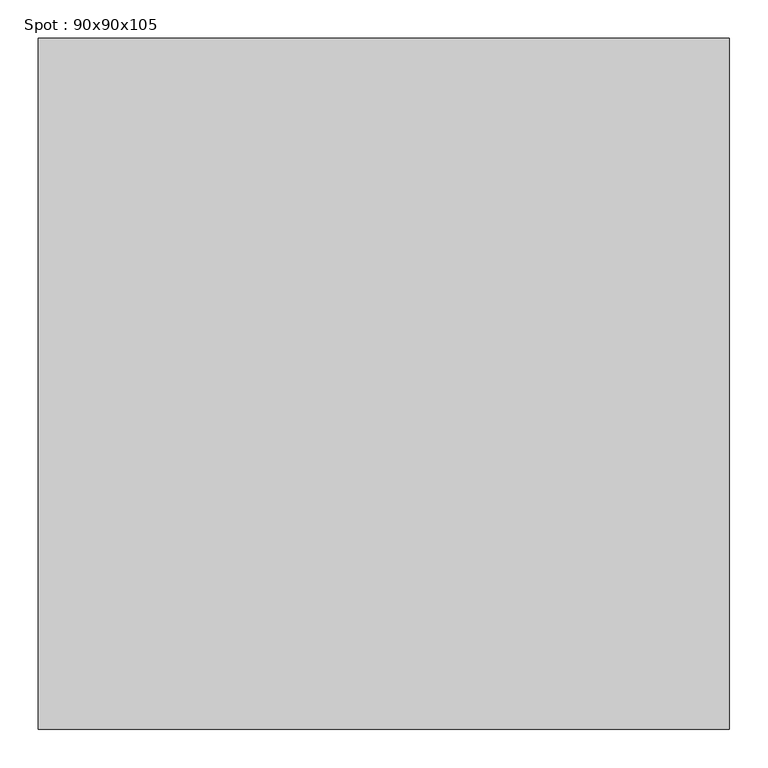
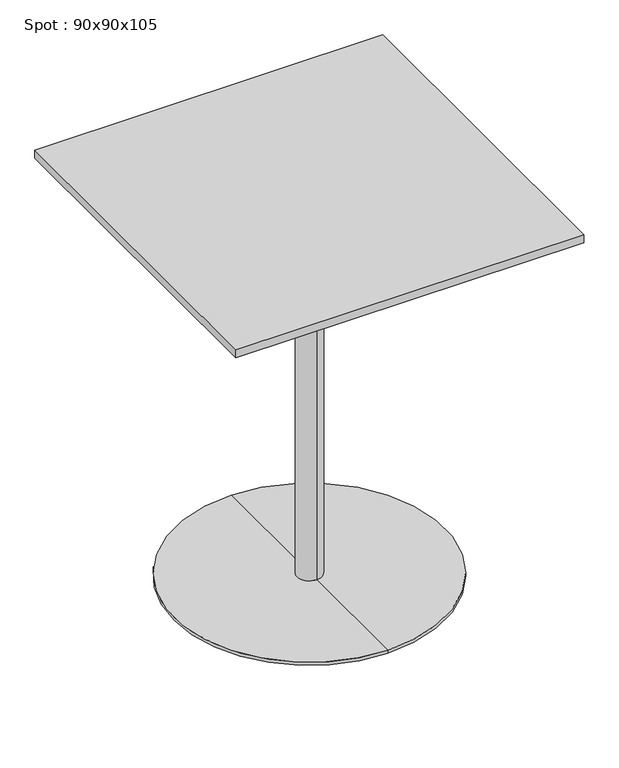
"""IFC4 building model written with IfcOpenShell, lengths in millimetres: furniture geometry, Spot : 90x90x105."""

from ifc_helpers import new_model, si_unit, frame, origin, place, context, project, spatial, polyline, circle_curve, outline, extrude, source, transform, mapped, element, save
from ifc_brep_helpers import plane_surface, cylinder_surface, revolved_surface, advanced_brep


def spot_90x90x105_c4fba47d(model_context):
    return source(origin(), model_context, "Body", "SolidModel", [
        extrude(outline(polyline([(450.0, 450.0), (450.0, -450.0), (-450.0, -450.0), (-450.0, 450.0), (450.0, 450.0)])), frame((0.0, 0.0, 1028.0), z_axis=(0.0, 0.0, 1.0), x_axis=(1.0, 0.0, 0.0)), (0.0, 0.0, 1.0), 22.0),
        advanced_brep(
        [(0.0, 32.0, 10.0), (0.0, -32.0, 10.0), (0.0, -32.0, 997.406916), (0.0, 32.0, 997.406916), (0.0, 350.0, 10.0), (0.0, -350.0, 10.0), (0.0, 350.0, 2.0), (0.0, -350.0, 2.0), (0.0, 0.0, 2.0), (0.0, 150.0, 1028.0), (0.0, -150.0, 1028.0), (0.0, 0.0, 1028.0), (0.0, 150.0, 1016.7213673), (0.0, -150.0, 1016.7213673)],
        [
            (0, 1, circle_curve(frame((0.0, 0.0, 10.0), z_axis=(0.0, 0.0, 1.0), x_axis=(0.0, -1.0, 0.0)), 32.0)),
            (1, 2),
            (2, 3, circle_curve(frame((0.0, 0.0, 997.406916), z_axis=(0.0, 0.0, -1.0), x_axis=(0.0, -1.0, 0.0)), 32.0)),
            (3, 0),
            (1, 0, circle_curve(frame((0.0, 0.0, 10.0), z_axis=(0.0, 0.0, 1.0), x_axis=(0.0, -1.0, 0.0)), 32.0)),
            (3, 2, circle_curve(frame((0.0, 0.0, 997.406916), z_axis=(0.0, 0.0, -1.0), x_axis=(0.0, -1.0, 0.0)), 32.0)),
            (4, 5, circle_curve(frame((0.0, 0.0, 10.0), z_axis=(0.0, 0.0, 1.0), x_axis=(0.0, -1.0, 0.0)), 350.0)),
            (5, 1),
            (0, 4),
            (5, 4, circle_curve(frame((0.0, 0.0, 10.0), z_axis=(0.0, 0.0, 1.0), x_axis=(0.0, -1.0, 0.0)), 350.0)),
            (6, 7, circle_curve(frame((0.0, 0.0, 2.0), z_axis=(0.0, 0.0, 1.0), x_axis=(0.0, -1.0, 0.0)), 350.0)),
            (7, 5),
            (4, 6),
            (7, 6, circle_curve(frame((0.0, 0.0, 2.0), z_axis=(0.0, 0.0, 1.0), x_axis=(0.0, -1.0, 0.0)), 350.0)),
            (8, 7),
            (6, 8),
            (9, 10, circle_curve(frame((0.0, 0.0, 1028.0), z_axis=(0.0, 0.0, 1.0), x_axis=(0.0, -1.0, 0.0)), 150.0)),
            (10, 11),
            (11, 9),
            (10, 9, circle_curve(frame((0.0, 0.0, 1028.0), z_axis=(0.0, 0.0, 1.0), x_axis=(0.0, -1.0, 0.0)), 150.0)),
            (12, 13, circle_curve(frame((0.0, 0.0, 1016.7213673), z_axis=(0.0, 0.0, 1.0), x_axis=(0.0, -1.0, 0.0)), 150.0)),
            (13, 10),
            (9, 12),
            (13, 12, circle_curve(frame((0.0, 0.0, 1016.7213673), z_axis=(0.0, 0.0, 1.0), x_axis=(0.0, -1.0, 0.0)), 150.0)),
            (2, 13),
            (12, 3),
        ],
        [
            cylinder_surface(frame((0.0, 0.0, 1390.0), z_axis=(0.0, 0.0, -1.0), x_axis=(0.0, -1.0, 0.0)), 32.0),
            plane_surface(frame((0.0, 0.0, 10.0), z_axis=(0.0, 0.0, 1.0), x_axis=(0.0, -1.0, 0.0))),
            cylinder_surface(frame((0.0, 0.0, 1390.0), z_axis=(0.0, 0.0, -1.0), x_axis=(0.0, -1.0, 0.0)), 350.0),
            plane_surface(frame((0.0, 0.0, 2.0), z_axis=(0.0, 0.0, -1.0), x_axis=(0.0, -1.0, 0.0))),
            plane_surface(frame((0.0, 0.0, 1028.0), z_axis=(0.0, 0.0, 1.0), x_axis=(0.0, -1.0, 0.0))),
            cylinder_surface(frame((0.0, 0.0, 1390.0), z_axis=(0.0, 0.0, -1.0), x_axis=(0.0, -1.0, 0.0)), 150.0),
            revolved_surface(polyline([(0.0, -150.0, 1016.7213673), (0.0, -32.0, 997.406916)]), (0.0, 0.0, 1390.0), (0.0, 0.0, -1.0)),
        ],
        [
            (0, [[1, 2, 3, 4]]),
            (0, [[5, -4, 6, -2]]),
            (1, [[7, 8, -1, 9]]),
            (1, [[10, -9, -5, -8]]),
            (2, [[11, 12, -7, 13]]),
            (2, [[14, -13, -10, -12]]),
            (3, [[15, -11, 16]]),
            (3, [[-16, -14, -15]]),
            (4, [[17, 18, 19]]),
            (4, [[20, -19, -18]]),
            (5, [[21, 22, -17, 23]]),
            (5, [[24, -23, -20, -22]]),
            (6, [[-3, 25, -21, 26]]),
            (6, [[-6, -26, -24, -25]]),
        ],
    ),
    ])


if __name__ == "__main__":
    model = new_model("IFC4")
    model_context = context("Model", 3, world=origin())
    ifc_project = project(units=[si_unit("LENGTHUNIT", "METRE", prefix="MILLI")], contexts=[model_context])
    site = spatial("IfcSite", under=ifc_project)
    building = spatial("IfcBuilding", under=site)
    placement = place(None, origin())
    spot_90x90x105_shape = spot_90x90x105_c4fba47d(model_context)
    element("IfcFurniture", 1, ObjectType="Spot : 90x90x105", at=placement, inside=building, context=model_context, shape_type="MappedRepresentation", body=[
        mapped(spot_90x90x105_shape, transform((0.0, 0.0, 0.0), x_axis=(1.0, 0.0, 0.0), y_axis=(0.0, 1.0, 0.0), z_axis=(0.0, 0.0, 1.0))),
    ])
    save(model, "model.ifc")
